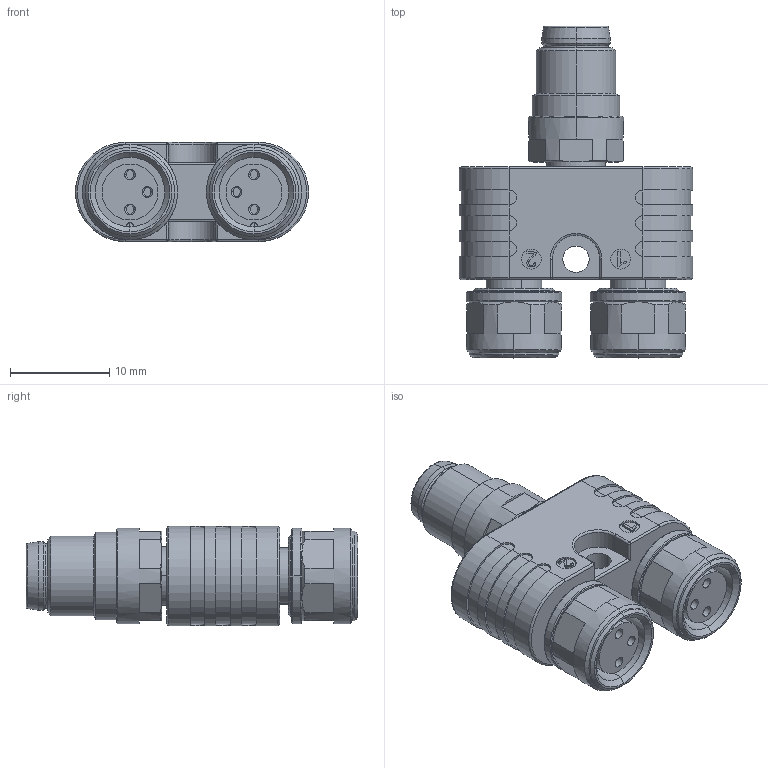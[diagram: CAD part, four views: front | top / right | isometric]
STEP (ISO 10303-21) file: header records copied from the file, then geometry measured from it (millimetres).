
FILE_DESCRIPTION (( 'STEP AP203' ), '1' );
FILE_NAME ('6636495-0831.STEP', '2023-08-31T05:00:03', ( '' ), ( '' ), 'SwSTEP 2.0', 'SolidWorks 2019', '' );
FILE_SCHEMA (( 'CONFIG_CONTROL_DESIGN' ));
Length unit declared in the file: millimetre
Products named in the file (1): 6636495-0831
Bounding box: 23.5 x 33.45 x 10 mm (x, y, z)
Surface area: 3548.9 mm2 (no closed solid volume)
Topology: 0 solids, 8 shells, 569 faces, 1380 edges, 861 vertices
Faces by surface type: cylinder 208, plane 176, bspline 86, cone 64, torus 24, sphere 11
Entity records: 19271 total; most frequent: CARTESIAN_POINT 6782, ORIENTED_EDGE 2710, DIRECTION 2402, EDGE_CURVE 1362, AXIS2_PLACEMENT_3D 986, VERTEX_POINT 855, EDGE_LOOP 633, ADVANCED_FACE 569
